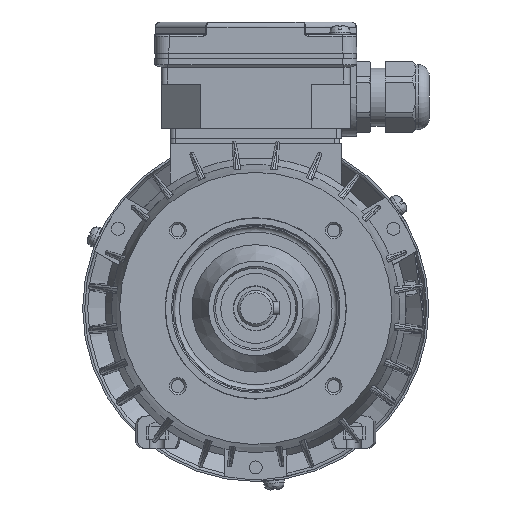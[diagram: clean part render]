
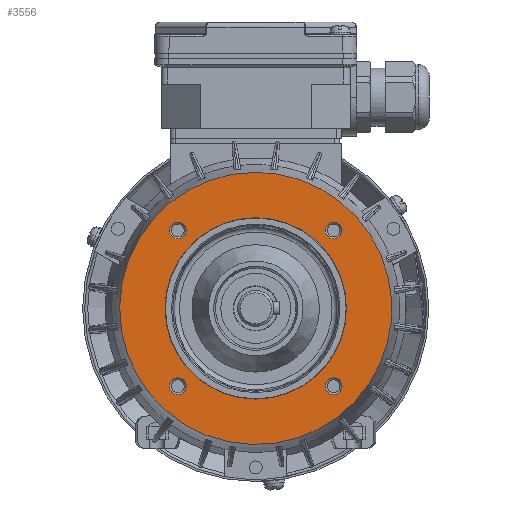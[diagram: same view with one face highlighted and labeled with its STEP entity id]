
A CAD part, front view. The second image highlights one B-rep face of the part: STEP entity #3556.
In plain terms, the highlighted planar face has unit normal (0, -1, 0) as drawn and (-1, 0, 0) by its records, which use the part's own axes.
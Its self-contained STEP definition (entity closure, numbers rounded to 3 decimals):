
#3556 = ADVANCED_FACE( '', ( #7113, #7114, #7115, #7116, #7117, #7118 ), #7119, .F. );
#7113 = FACE_BOUND( '', #20836, .T. );
#7114 = FACE_BOUND( '', #20837, .T. );
#7115 = FACE_BOUND( '', #20838, .T. );
#7116 = FACE_BOUND( '', #20839, .T. );
#7117 = FACE_BOUND( '', #20840, .T. );
#7118 = FACE_OUTER_BOUND( '', #20841, .T. );
#7119 = PLANE( '', #20842 );
#20836 = EDGE_LOOP( '', ( #35505 ) );
#20837 = EDGE_LOOP( '', ( #35506 ) );
#20838 = EDGE_LOOP( '', ( #35507 ) );
#20839 = EDGE_LOOP( '', ( #35508 ) );
#20840 = EDGE_LOOP( '', ( #35509 ) );
#20841 = EDGE_LOOP( '', ( #35510 ) );
#20842 = AXIS2_PLACEMENT_3D( '', #35511, #35512, #35513 );
#35505 = ORIENTED_EDGE( '', *, *, #43445, .T. );
#35506 = ORIENTED_EDGE( '', *, *, #41910, .T. );
#35507 = ORIENTED_EDGE( '', *, *, #41578, .T. );
#35508 = ORIENTED_EDGE( '', *, *, #42735, .T. );
#35509 = ORIENTED_EDGE( '', *, *, #43446, .F. );
#35510 = ORIENTED_EDGE( '', *, *, #43074, .T. );
#35511 = CARTESIAN_POINT( '', ( 2.5, 0., 52.5 ) );
#35512 = DIRECTION( '', ( 1., 0., 0. ) );
#35513 = DIRECTION( '', ( 0., 0., -1. ) );
#41578 = EDGE_CURVE( '', #52637, #52637, #52638, .T. );
#41910 = EDGE_CURVE( '', #53147, #53147, #53148, .T. );
#42735 = EDGE_CURVE( '', #54314, #54314, #54315, .T. );
#43074 = EDGE_CURVE( '', #54762, #54762, #54763, .T. );
#43445 = EDGE_CURVE( '', #55217, #55217, #55218, .T. );
#43446 = EDGE_CURVE( '', #55219, #55219, #55220, .T. );
#52637 = VERTEX_POINT( '', #66321 );
#52638 = CIRCLE( '', #66322, 3.259 );
#53147 = VERTEX_POINT( '', #67832 );
#53148 = CIRCLE( '', #67833, 3.259 );
#54314 = VERTEX_POINT( '', #71569 );
#54315 = CIRCLE( '', #71570, 3.259 );
#54762 = VERTEX_POINT( '', #73413 );
#54763 = CIRCLE( '', #73414, 52.5 );
#55217 = VERTEX_POINT( '', #74587 );
#55218 = CIRCLE( '', #74588, 3.259 );
#55219 = VERTEX_POINT( '', #74589 );
#55220 = CIRCLE( '', #74590, 35. );
#66321 = CARTESIAN_POINT( '', ( 2.5, -33.311, -30.052 ) );
#66322 = AXIS2_PLACEMENT_3D( '', #81064, #81065, #81066 );
#67832 = CARTESIAN_POINT( '', ( 2.5, 26.794, -30.052 ) );
#67833 = AXIS2_PLACEMENT_3D( '', #81472, #81473, #81474 );
#71569 = CARTESIAN_POINT( '', ( 2.5, -33.311, 30.052 ) );
#71570 = AXIS2_PLACEMENT_3D( '', #82304, #82305, #82306 );
#73413 = CARTESIAN_POINT( '', ( 2.5, 0., 52.5 ) );
#73414 = AXIS2_PLACEMENT_3D( '', #82630, #82631, #82632 );
#74587 = CARTESIAN_POINT( '', ( 2.5, 26.794, 30.052 ) );
#74588 = AXIS2_PLACEMENT_3D( '', #82942, #82943, #82944 );
#74589 = CARTESIAN_POINT( '', ( 2.5, 0., 35. ) );
#74590 = AXIS2_PLACEMENT_3D( '', #82945, #82946, #82947 );
#81064 = CARTESIAN_POINT( '', ( 2.5, -30.052, -30.052 ) );
#81065 = DIRECTION( '', ( 1., 0., 0. ) );
#81066 = DIRECTION( '', ( 0., -1., 0. ) );
#81472 = CARTESIAN_POINT( '', ( 2.5, 30.052, -30.052 ) );
#81473 = DIRECTION( '', ( 1., 0., 0. ) );
#81474 = DIRECTION( '', ( 0., -1., 0. ) );
#82304 = CARTESIAN_POINT( '', ( 2.5, -30.052, 30.052 ) );
#82305 = DIRECTION( '', ( 1., 0., 0. ) );
#82306 = DIRECTION( '', ( 0., -1., 0. ) );
#82630 = CARTESIAN_POINT( '', ( 2.5, 0., 0. ) );
#82631 = DIRECTION( '', ( -1., 0., 0. ) );
#82632 = DIRECTION( '', ( 0., 0., 1. ) );
#82942 = CARTESIAN_POINT( '', ( 2.5, 30.052, 30.052 ) );
#82943 = DIRECTION( '', ( 1., 0., 0. ) );
#82944 = DIRECTION( '', ( 0., -1., 0. ) );
#82945 = CARTESIAN_POINT( '', ( 2.5, 0., 0. ) );
#82946 = DIRECTION( '', ( -1., 0., 0. ) );
#82947 = DIRECTION( '', ( 0., 0., 1. ) );
